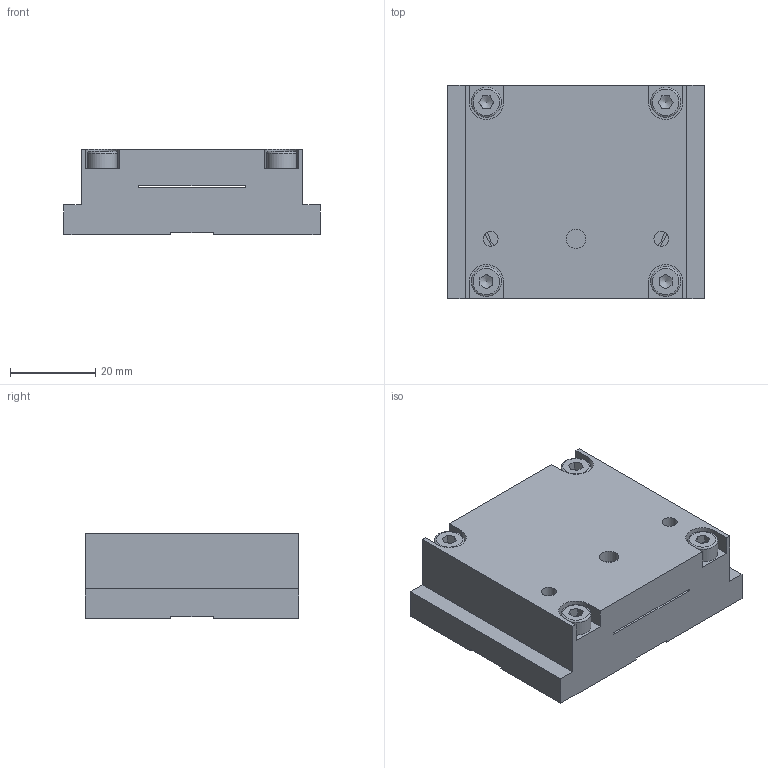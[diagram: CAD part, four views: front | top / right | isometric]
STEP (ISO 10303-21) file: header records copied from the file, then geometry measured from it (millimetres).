
FILE_DESCRIPTION(/* description */ (''),/* implementation_level */ '2;1');
FILE_NAME(/* name */ 'U:\KONSTRUKTORIAI\DOKUMENTACIJA\5\5UFOM-XX\STEP\5UFOM-40B SB.stp',/* time_stamp */ '2016-10-12T08:48:35+03:00',/* author */ ('dsgn32'),/* organization */ (''),/* preprocessor_version */ 'ST-DEVELOPER v15.2',/* originating_system */ 'Autodesk Inventor 2014',/* authorisation */ '');
FILE_SCHEMA (('AUTOMOTIVE_DESIGN { 1 0 10303 214 3 1 1 }'));
Length unit declared in the file: millimetre
Products named in the file (2): Part18; Assembly6
Bounding box: 60 x 50 x 20 mm (x, y, z)
Volume: 46757.5 mm3; surface area: 19087.9 mm2
Topology: 1 solids, 5 shells, 160 faces, 386 edges, 253 vertices
Faces by surface type: plane 103, cylinder 39, cone 10, torus 8
Full cylindrical faces by diameter (mm): 3.242 x4, 3.5 x2, 4 x4, 4.5 x7, 6 x6, 7 x4, 8 x1, 42 x1, 46 x1, 47 x1
Entity records: 4264 total; most frequent: CARTESIAN_POINT 759, DIRECTION 726, ORIENTED_EDGE 632, EDGE_CURVE 316, AXIS2_PLACEMENT_3D 271, EDGE_LOOP 244, VERTEX_POINT 232, LINE 184
